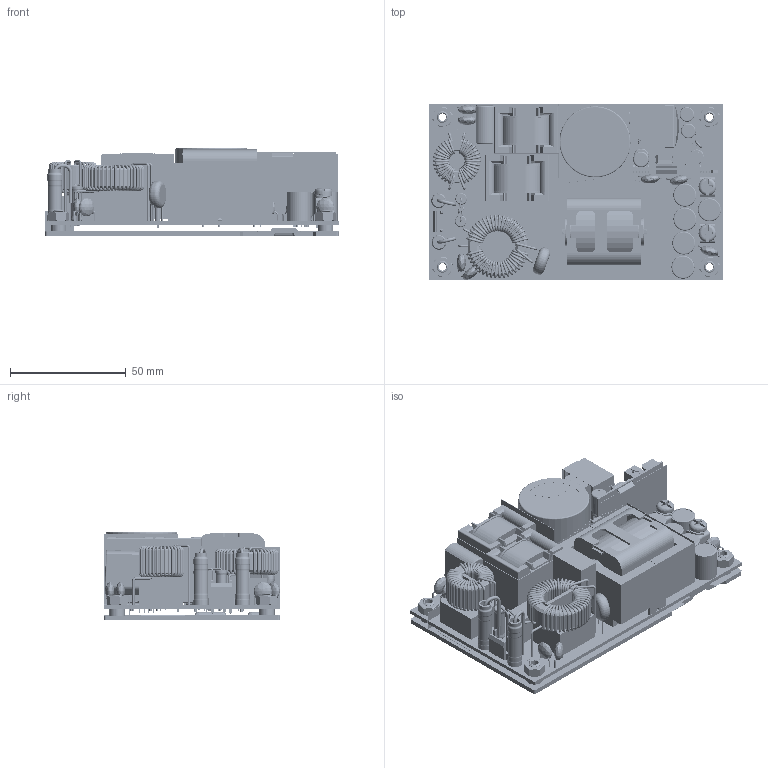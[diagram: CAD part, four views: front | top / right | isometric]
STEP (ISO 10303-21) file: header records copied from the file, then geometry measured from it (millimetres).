
FILE_DESCRIPTION (( 'STEP AP203' ), '1' );
FILE_NAME ('CFM500S(M)XXX ¦¨«~¹Ï-1130723.STEP', '2024-07-29T01:53:19', ( 'cincon' ), ( '' ), 'SwSTEP 2.0', 'SolidWorks 2020', '' );
FILE_SCHEMA (( 'CONFIG_CONTROL_DESIGN' ));
Products named in the file (1): CFM500S(M)XXX 成品圖-1130723
Bounding box: 127.3 x 76.5 x 38.4 mm (x, y, z)
Volume: 173213 mm3; surface area: 121870.8 mm2
Topology: 8 solids, 22 shells, 5472 faces, 15331 edges, 9705 vertices
Faces by surface type: plane 2139, cylinder 1904, torus 995, bspline 237, cone 193, sphere 4
Entity records: 205033 total; most frequent: CARTESIAN_POINT 62860, ORIENTED_EDGE 30586, DIRECTION 30270, EDGE_CURVE 15293, AXIS2_PLACEMENT_3D 11475, VERTEX_POINT 9705, VECTOR 7320, LINE 7320
